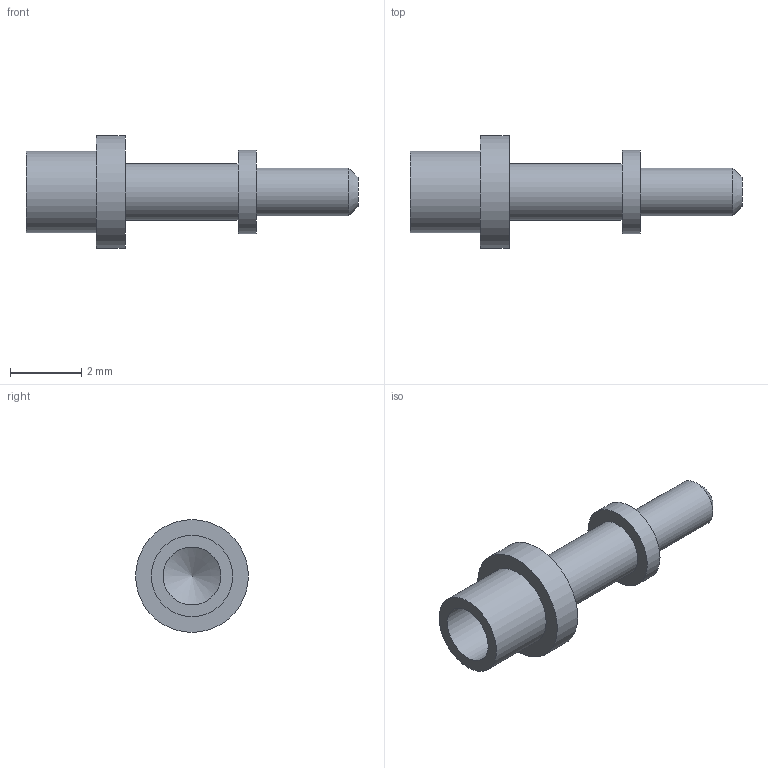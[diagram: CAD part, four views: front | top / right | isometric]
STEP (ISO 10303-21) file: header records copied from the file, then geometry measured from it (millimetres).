
FILE_DESCRIPTION(/* description */ (''),/* implementation_level */ '2;1');
FILE_NAME(/* name */ 'Z:\STEP folder\120-1011-01.ipt.stp',/* time_stamp */ '2016-12-07T10:26:04+00:00',/* author */ ('Paul Karlsons'),/* organization */ (''),/* preprocessor_version */ 'ST-DEVELOPER v15.2',/* originating_system */ 'Autodesk Inventor 2014',/* authorisation */ '');
FILE_SCHEMA (('AUTOMOTIVE_DESIGN { 1 0 10303 214 3 1 1 }'));
Length unit declared in the file: millimetre
Products named in the file (1): 120-1011-01
Bounding box: 9.35 x 3.17 x 3.17 mm (x, y, z)
Volume: 23.5 mm3; surface area: 82.6 mm2
Topology: 1 solids, 1 shells, 14 faces, 22 edges, 14 vertices
Faces by surface type: cylinder 6, plane 6, cone 2
Full cylindrical faces by diameter (mm): 1.346 x1, 1.6 x1, 1.626 x1, 2.286 x1, 2.36 x1, 3.175 x1
Entity records: 295 total; most frequent: DIRECTION 56, CARTESIAN_POINT 41, AXIS2_PLACEMENT_3D 28, EDGE_LOOP 26, ORIENTED_EDGE 26, FACE_BOUND 15, ADVANCED_FACE 14, CIRCLE 13
